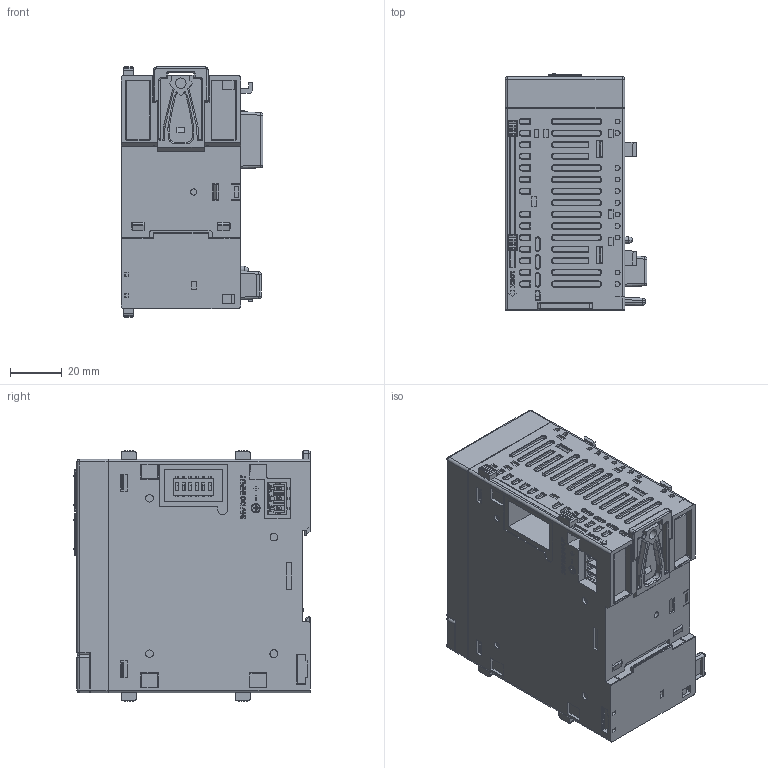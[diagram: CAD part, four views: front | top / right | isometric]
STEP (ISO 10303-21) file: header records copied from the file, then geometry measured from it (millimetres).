
FILE_DESCRIPTION((''),'2;1');
FILE_NAME('MPLC-IO-COUPLER-DOWN-COVER','2023-12-11T00:15:27',('Jacky Chang'),(''),'CREO PARAMETRIC BY PTC INC, 2021284','CREO PARAMETRIC BY PTC INC, 2021284','');
FILE_SCHEMA(('CONFIG_CONTROL_DESIGN','SHAPE_APPEARANCE_LAYERS_GROUPS'));
Products named in the file (1): MPLC-IO-COUPLER-DOWN-COVER
Bounding box: 54.8 x 91.2 x 96.6 mm (x, y, z)
Volume: 358184.9 mm3; surface area: 49821 mm2
Topology: 1 solids, 10 shells, 6271 faces, 17049 edges, 10937 vertices
Faces by surface type: plane 4195, cylinder 1277, bspline 218, torus 188, extrusion 183, cone 164, sphere 46
Entity records: 304427 total; most frequent: CARTESIAN_POINT 47725, ORIENTED_EDGE 34050, DIRECTION 29941, PRESENTATION_STYLE_ASSIGNMENT 21235, STYLED_ITEM 17026, CURVE_STYLE 17025, EDGE_CURVE 17025, VECTOR 13153
